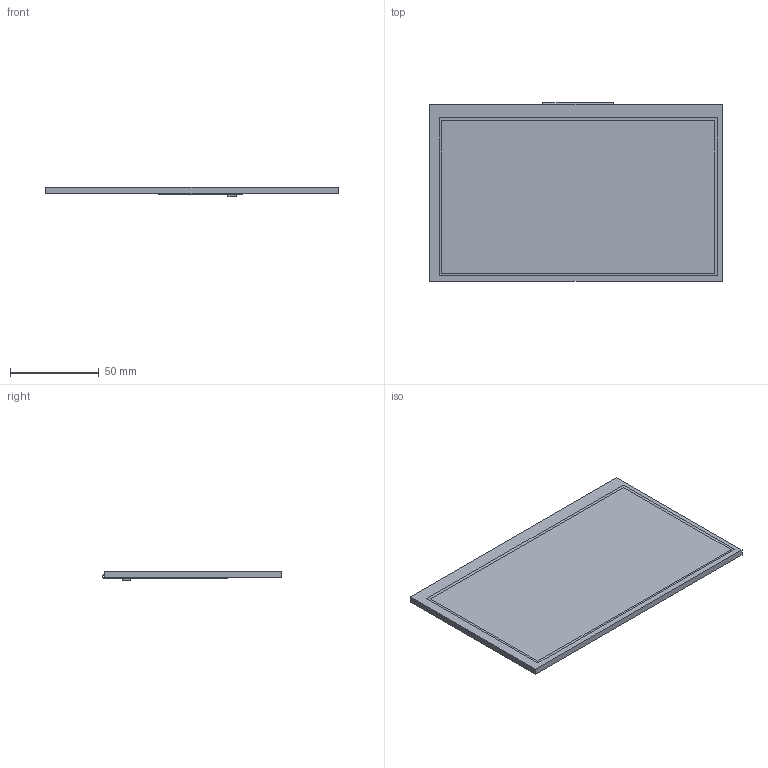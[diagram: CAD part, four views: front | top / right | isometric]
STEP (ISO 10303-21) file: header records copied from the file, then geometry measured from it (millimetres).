
FILE_DESCRIPTION(/* description */ (''),/* implementation_level */ '2;1');
FILE_NAME(/* name */ '',/* time_stamp */ '2022-03-01T19:59:35+08:00',/* author */ (''),/* organization */ (''),/* preprocessor_version */ 'ST-DEVELOPER v11',/* originating_system */ 'SIEMENS PLM Software NX 7.5',/* authorisation */ '');
FILE_SCHEMA (('AP203_CONFIGURATION_CONTROLLED_3D_DESIGN_OF_MECHANICAL_PARTS_AND_ASSEMBLIES_MIM_LF'));
Length unit declared in the file: millimetre
Products named in the file (1): b070T63V03N
Bounding box: 164.9 x 100.85 x 5.12 mm (x, y, z)
Volume: 58587.1 mm3; surface area: 69591.1 mm2
Topology: 22 solids, 22 shells, 193 faces, 440 edges, 293 vertices
Faces by surface type: plane 179, cylinder 14
Entity records: 6593 total; most frequent: CARTESIAN_POINT 927, ORIENTED_EDGE 880, DIRECTION 856, EDGE_CURVE 440, LINE 412, VECTOR 412, VERTEX_POINT 292, AXIS2_PLACEMENT_3D 222
